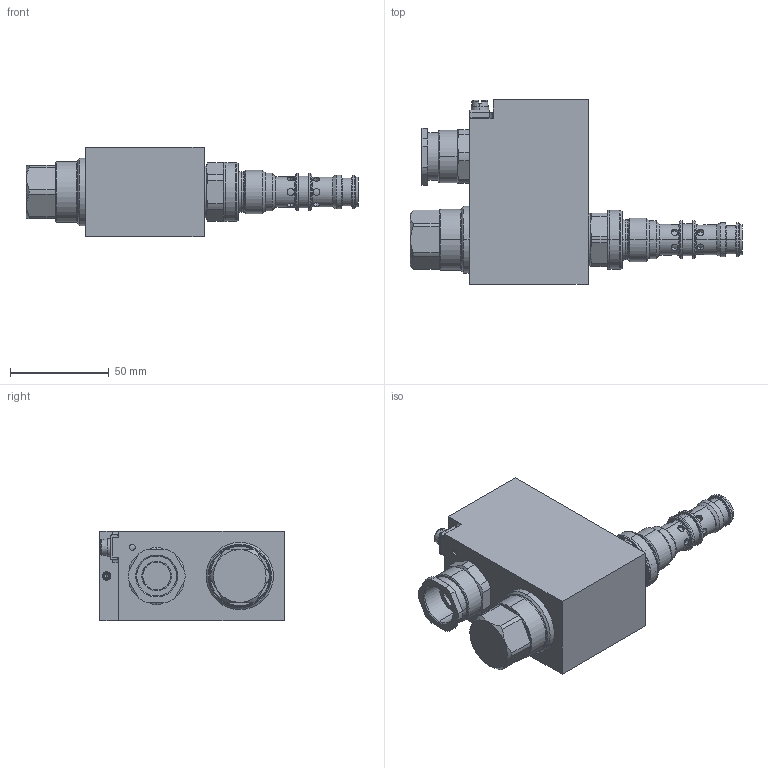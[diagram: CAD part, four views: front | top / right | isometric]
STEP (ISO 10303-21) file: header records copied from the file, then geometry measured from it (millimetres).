
FILE_DESCRIPTION (( 'STEP AP214' ), '1' );
FILE_NAME ('SDYPM22-FG-K9.STEP', '2021-02-24T11:10:27', ( '' ), ( '' ), 'SwSTEP 2.0', 'SolidWorks 2020', '' );
FILE_SCHEMA (( 'AUTOMOTIVE_DESIGN' ));
Length unit declared in the file: millimetre
Products named in the file (1): SDYPM22-FG-K9
Bounding box: 167.8 x 93.3 x 45 mm (x, y, z)
Volume: 300547.3 mm3; surface area: 40071.8 mm2
Topology: 1 solids, 1 shells, 403 faces, 960 edges, 604 vertices
Faces by surface type: plane 165, cylinder 148, cone 50, torus 38, bspline 2
Entity records: 17863 total; most frequent: CARTESIAN_POINT 4069, DIRECTION 2005, ORIENTED_EDGE 1916, EDGE_CURVE 958, AXIS2_PLACEMENT_3D 787, VERTEX_POINT 604, EDGE_LOOP 452, LINE 431
